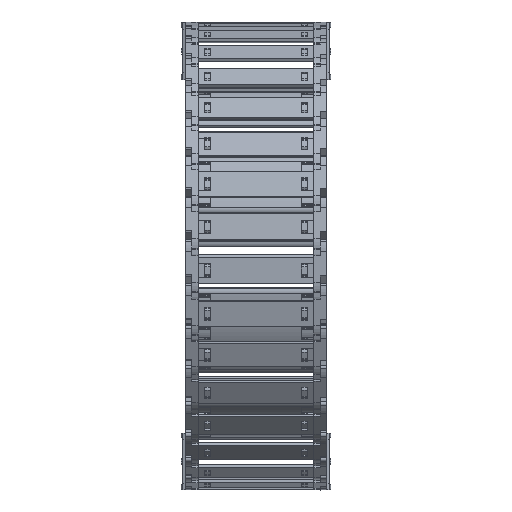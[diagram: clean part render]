
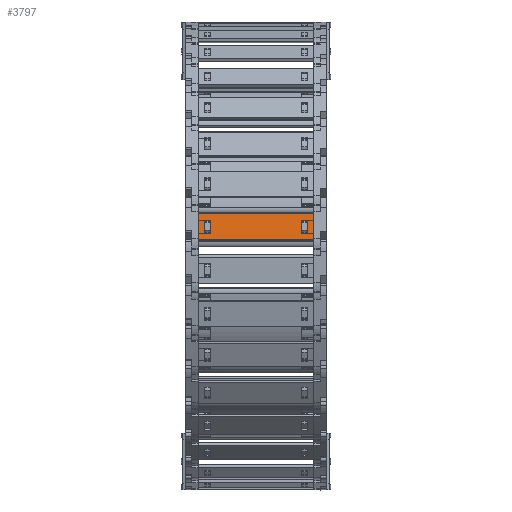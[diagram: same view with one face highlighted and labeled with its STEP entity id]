
A CAD part, top view. The second image highlights one B-rep face of the part: STEP entity #3797.
In plain terms, the highlighted planar face has unit normal (0, 0.125, 0.992) as drawn and (0, 1, 0) by its records, which use the part's own axes.
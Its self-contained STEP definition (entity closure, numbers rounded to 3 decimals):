
#2923=DIRECTION('',(0.,0.,1.));
#2924=VECTOR('',#2923,15.8);
#2925=CARTESIAN_POINT('',(55.74,1.5,-7.9));
#2926=LINE('',#2925,#2924);
#2930=DIRECTION('',(-1.,0.,0.));
#2931=VECTOR('',#2930,70.5);
#2932=CARTESIAN_POINT('',(55.74,1.5,7.9));
#2933=LINE('',#2932,#2931);
#2937=DIRECTION('',(0.,0.,-1.));
#2938=VECTOR('',#2937,15.8);
#2939=CARTESIAN_POINT('',(-14.76,1.5,7.9));
#2940=LINE('',#2939,#2938);
#2944=DIRECTION('',(1.,0.,0.));
#2945=VECTOR('',#2944,3.648);
#2946=CARTESIAN_POINT('',(48.122,1.5,4.075));
#2947=LINE('',#2946,#2945);
#2951=DIRECTION('',(0.,0.,-1.));
#2952=VECTOR('',#2951,8.15);
#2953=CARTESIAN_POINT('',(51.77,1.5,4.075));
#2954=LINE('',#2953,#2952);
#2958=DIRECTION('',(-1.,0.,0.));
#2959=VECTOR('',#2958,3.648);
#2960=CARTESIAN_POINT('',(51.77,1.5,-4.075));
#2961=LINE('',#2960,#2959);
#2965=DIRECTION('',(0.,0.,-1.));
#2966=VECTOR('',#2965,8.15);
#2967=CARTESIAN_POINT('',(-7.142,1.5,4.075));
#2968=LINE('',#2967,#2966);
#2972=DIRECTION('',(-1.,0.,0.));
#2973=VECTOR('',#2972,3.648);
#2974=CARTESIAN_POINT('',(-7.142,1.5,-4.075));
#2975=LINE('',#2974,#2973);
#2979=DIRECTION('',(0.,0.,1.));
#2980=VECTOR('',#2979,8.15);
#2981=CARTESIAN_POINT('',(-10.79,1.5,-4.075));
#2982=LINE('',#2981,#2980);
#2986=DIRECTION('',(1.,0.,0.));
#2987=VECTOR('',#2986,3.648);
#2988=CARTESIAN_POINT('',(-10.79,1.5,4.075));
#2989=LINE('',#2988,#2987);
#3000=DIRECTION('',(-1.,0.,0.));
#3001=VECTOR('',#3000,70.5);
#3002=CARTESIAN_POINT('',(55.74,1.5,-7.9));
#3003=LINE('',#3002,#3001);
#3208=DIRECTION('',(0.,0.,-1.));
#3209=VECTOR('',#3208,8.15);
#3210=CARTESIAN_POINT('',(48.122,1.5,4.075));
#3211=LINE('',#3210,#3209);
#3507=CARTESIAN_POINT('',(51.77,1.5,4.075));
#3508=VERTEX_POINT('',#3507);
#3509=CARTESIAN_POINT('',(48.122,1.5,4.075));
#3510=VERTEX_POINT('',#3509);
#3551=CARTESIAN_POINT('',(48.122,1.5,-4.075));
#3552=VERTEX_POINT('',#3551);
#3553=CARTESIAN_POINT('',(51.77,1.5,-4.075));
#3554=VERTEX_POINT('',#3553);
#3555=CARTESIAN_POINT('',(55.74,1.5,7.9));
#3557=VERTEX_POINT('',#3555);
#3559=CARTESIAN_POINT('',(55.74,1.5,-7.9));
#3560=VERTEX_POINT('',#3559);
#3583=CARTESIAN_POINT('',(-7.142,1.5,4.075));
#3584=CARTESIAN_POINT('',(-7.142,1.5,-4.075));
#3585=VERTEX_POINT('',#3583);
#3586=VERTEX_POINT('',#3584);
#3587=CARTESIAN_POINT('',(-10.79,1.5,-4.075));
#3588=VERTEX_POINT('',#3587);
#3589=CARTESIAN_POINT('',(-10.79,1.5,4.075));
#3590=VERTEX_POINT('',#3589);
#3591=CARTESIAN_POINT('',(-14.76,1.5,7.9));
#3592=VERTEX_POINT('',#3591);
#3595=CARTESIAN_POINT('',(-14.76,1.5,-7.9));
#3596=VERTEX_POINT('',#3595);
#3766=CARTESIAN_POINT('',(87.48,1.5,10.061));
#3767=DIRECTION('',(0.,-1.,0.));
#3768=DIRECTION('',(0.,0.,-1.));
#3769=AXIS2_PLACEMENT_3D('',#3766,#3767,#3768);
#3770=PLANE('',#3769);
#3771=ORIENTED_EDGE('',*,*,#3669,.T.);
#3772=ORIENTED_EDGE('',*,*,#3707,.T.);
#3773=ORIENTED_EDGE('',*,*,#3732,.T.);
#3775=ORIENTED_EDGE('',*,*,#3774,.F.);
#3776=EDGE_LOOP('',(#3771,#3772,#3773,#3775));
#3777=FACE_OUTER_BOUND('',#3776,.F.);
#3779=ORIENTED_EDGE('',*,*,#3778,.F.);
#3780=ORIENTED_EDGE('',*,*,#3608,.T.);
#3782=ORIENTED_EDGE('',*,*,#3781,.T.);
#3784=ORIENTED_EDGE('',*,*,#3783,.T.);
#3785=EDGE_LOOP('',(#3779,#3780,#3782,#3784));
#3786=FACE_BOUND('',#3785,.F.);
#3788=ORIENTED_EDGE('',*,*,#3787,.T.);
#3790=ORIENTED_EDGE('',*,*,#3789,.T.);
#3792=ORIENTED_EDGE('',*,*,#3791,.T.);
#3794=ORIENTED_EDGE('',*,*,#3793,.T.);
#3795=EDGE_LOOP('',(#3788,#3790,#3792,#3794));
#3796=FACE_BOUND('',#3795,.F.);
#3797=ADVANCED_FACE('',(#3777,#3786,#3796),#3770,.F.);
#3608=EDGE_CURVE('',#3510,#3508,#2947,.T.);
#3669=EDGE_CURVE('',#3560,#3557,#2926,.T.);
#3707=EDGE_CURVE('',#3557,#3592,#2933,.T.);
#3732=EDGE_CURVE('',#3592,#3596,#2940,.T.);
#3774=EDGE_CURVE('',#3560,#3596,#3003,.T.);
#3778=EDGE_CURVE('',#3510,#3552,#3211,.T.);
#3781=EDGE_CURVE('',#3508,#3554,#2954,.T.);
#3783=EDGE_CURVE('',#3554,#3552,#2961,.T.);
#3787=EDGE_CURVE('',#3585,#3586,#2968,.T.);
#3789=EDGE_CURVE('',#3586,#3588,#2975,.T.);
#3791=EDGE_CURVE('',#3588,#3590,#2982,.T.);
#3793=EDGE_CURVE('',#3590,#3585,#2989,.T.);
